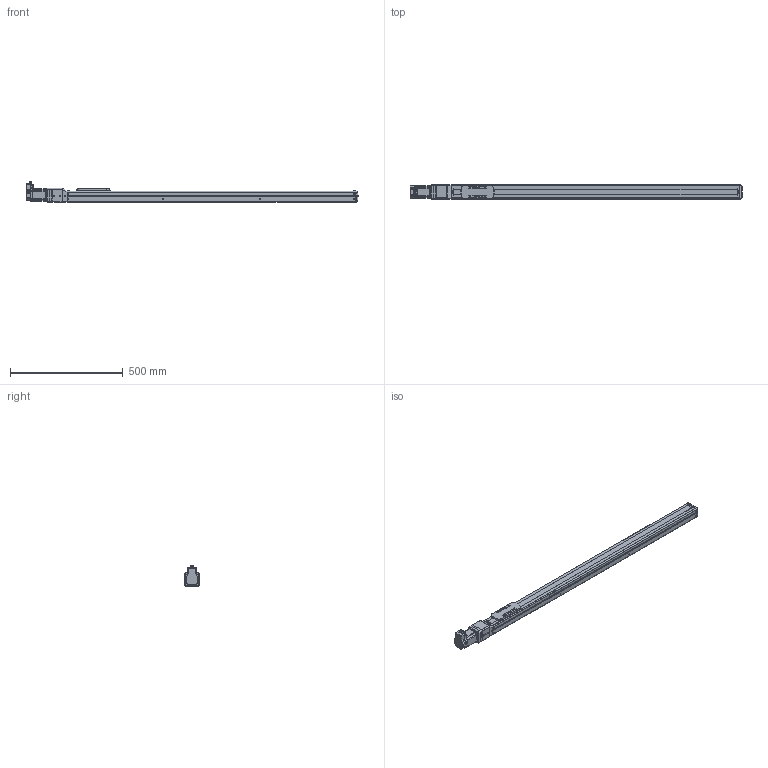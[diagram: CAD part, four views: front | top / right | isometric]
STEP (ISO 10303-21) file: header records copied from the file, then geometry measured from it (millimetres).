
FILE_DESCRIPTION(('FreeCAD Model'),'2;1');
FILE_NAME('Open CASCADE Shape Model','2023-08-02T11:15:52',('Author'),( ''),'Open CASCADE STEP processor 7.5','FreeCAD','Unknown');
FILE_SCHEMA(('AUTOMOTIVE_DESIGN { 1 0 10303 214 1 1 1 1 }'));
Length unit declared in the file: millimetre
Products named in the file (19): RSA1211; 1; 6; 5; 12; 2; 3; 9; 4; 11; 7; 13; 10; 8; Shapes; KSF6-20-1050-0-A0(0); KSF6---(Cover); KSF6-10-0050---(slider); KSF6-20-01050-A0 (01050A0No0)---(body)
Assembly tree (18 placements, depth 3):
  RSA1211
    1
    6
    5
    12
    2
    3
    9
    4
    11
    7
    13
    10
    8
    Shapes
    KSF6-20-1050-0-A0(0)
      KSF6---(Cover)
      KSF6-10-0050---(slider)
      KSF6-20-01050-A0 (01050A0No0)---(body)
Bounding box: 1473 x 66.4 x 93.17 mm (x, y, z)
Volume: 4598617.2 mm3; surface area: 471545.3 mm2
Topology: 17 solids, 17 shells, 1603 faces, 4265 edges, 2801 vertices
Faces by surface type: plane 1147, cylinder 318, cone 75, bspline 32, torus 27, revolution 4
Full cylindrical faces by diameter (mm): 2.113 x8, 2.6 x4, 3 x2, 3.242 x5, 4.134 x4, 4.5 x2, 5 x1, 5.5 x20, 6.5 x4, 9 x1, 9.5 x14, 12 x1, 15.5 x1, 17 x1, 44 x1, 50 x1
Entity records: 112540 total; most frequent: CARTESIAN_POINT 26494, DIRECTION 16010, LINE 10839, VECTOR 10839, ORIENTED_EDGE 8490, PCURVE 8490, DEFINITIONAL_REPRESENTATION 8490, EDGE_CURVE 4245
